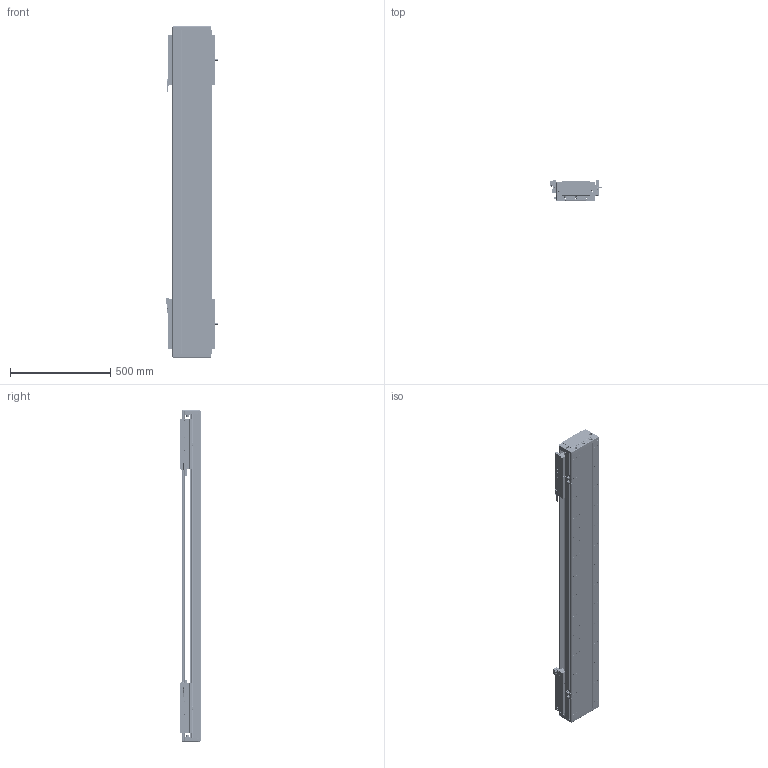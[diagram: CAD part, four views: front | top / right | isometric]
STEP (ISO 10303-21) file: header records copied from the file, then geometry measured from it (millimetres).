
FILE_DESCRIPTION (( 'STEP AP203' ), '1' );
FILE_NAME ('DA-C195-2-C3-T1040-C010-0.2 眻盄萇儂.STEP', '2025-08-14T11:02:47', ( '' ), ( '' ), 'SwSTEP 2.0', 'SolidWorks 2019', '' );
FILE_SCHEMA (( 'CONFIG_CONTROL_DESIGN' ));
Length unit declared in the file: millimetre
Products named in the file (16): 66156-0001-003-00 裔啣; IU-CU195-L-00 菁釱(L1620); DKW168-HXJ-ZJ-00 笢潔滅袉砎蝶; DKW-KGZ-ZJ-00 中间光电开关支架; DA195-DG-H-00  端盖（压铸镂空版）; DA95-HXJ-00 遣喳砎蝶; 葩璃 DA95-GT-T-00; MS200 棠掑喜S315-T240; CU195-C3賑輸-俋楷; DA-C195-2-C3-T1040-C010-0.2 眻盄萇儂; IU-CU195-L 菁釱絳寢; DA165-GYP-00 光电感应片(默认); PM-T45ㄗ侂狟ㄘ; LMT黍杅芛; DKW-GYP-ZJ-00 笢潔嫖萇覜茼え; PM-Y65嫖萇羲壽郪璃
Assembly tree (28 placements, depth 3):
  DA-C195-2-C3-T1040-C010-0.2 眻盄萇儂
    IU-CU195-L 菁釱絳寢
      IU-CU195-L-00 菁釱(L1620)
      葩璃 DA95-GT-T-00  x4
    LMT黍杅芛  x2
    MS200 棠掑喜S315-T240
    PM-T45ㄗ侂狟ㄘ  x4
    DA165-GYP-00 光电感应片(默认)  x2
    DA195-DG-H-00  端盖（压铸镂空版）  x2
    DA95-HXJ-00 遣喳砎蝶  x4
    PM-Y65嫖萇羲壽郪璃
    66156-0001-003-00 裔啣
    DKW168-HXJ-ZJ-00 笢潔滅袉砎蝶
    DKW-GYP-ZJ-00 笢潔嫖萇覜茼え
    DKW-KGZ-ZJ-00 中间光电开关支架
    CU195-C3賑輸-俋楷  x2
Bounding box: 258.2 x 115.6 x 1660 mm (x, y, z)
Volume: 13055919 mm3; surface area: 3612859.4 mm2
Topology: 146 solids, 218 shells, 7962 faces, 20392 edges, 12455 vertices
Faces by surface type: cylinder 3384, plane 2794, cone 914, bspline 718, torus 80, sphere 72
Entity records: 165219 total; most frequent: CARTESIAN_POINT 51386, ORIENTED_EDGE 23970, DIRECTION 22496, EDGE_CURVE 11985, AXIS2_PLACEMENT_3D 8223, VERTEX_POINT 7608, LINE 6050, VECTOR 6050
